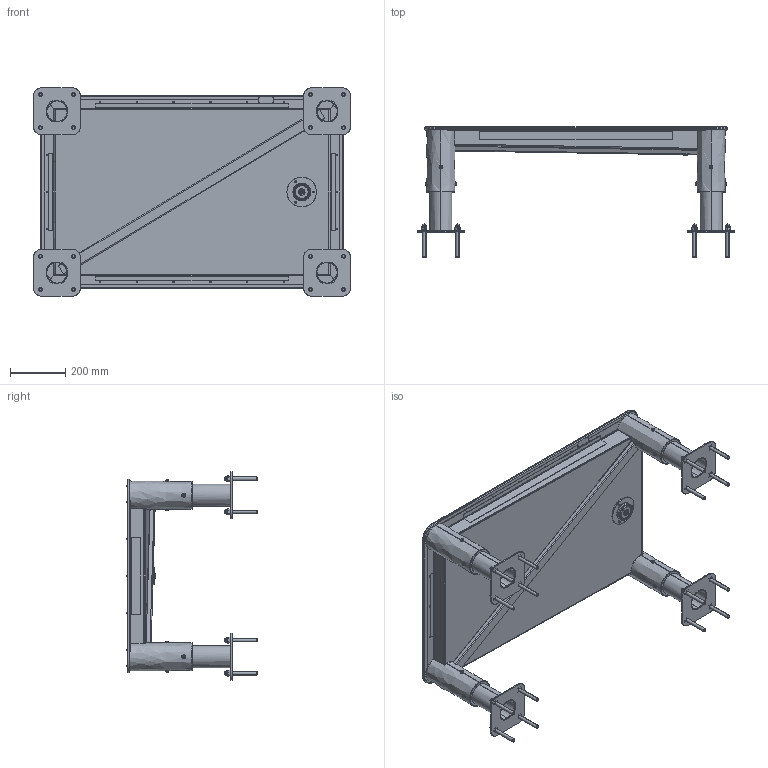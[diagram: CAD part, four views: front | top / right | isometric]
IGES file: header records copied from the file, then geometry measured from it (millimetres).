
Start section: SolidWorks IGES file using analytic representation for surfaces
Global section: file name: C:\Users\user18\OneDrive - KBT\Pulpit\KORONA-KOPIA\Water_Arek_Karol\XXX. Basic Water System\570.202.020.01x Mud Pool - 38cm\11. Modele 3D dla klientów\570.202.020.011 - Mud pool 38cm FA.IGS; native system: SolidWorks 2018; preprocessor: SolidWorks 2018; author: user18; date: 210325.092126; units: millimetre
Bounding box: 1148 x 472.1 x 755 mm (x, y, z)
Surface area: 3536870 mm2 (no closed solid volume)
Topology: 0 solids, 0 shells, 1217 faces, 18478 edges, 18435 vertices
Faces by surface type: bspline 625, revolution 592
